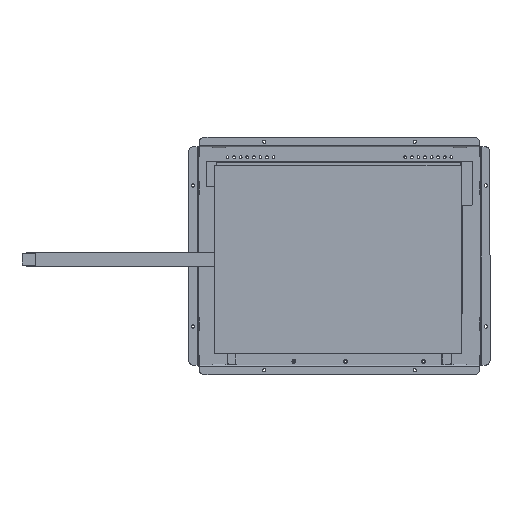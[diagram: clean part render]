
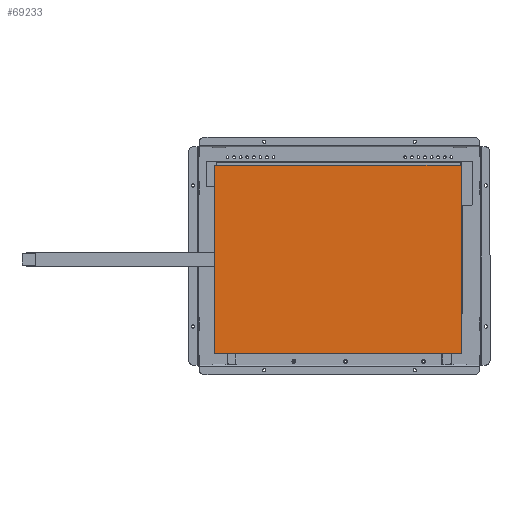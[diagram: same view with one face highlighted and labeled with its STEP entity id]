
A CAD part, top view. The second image highlights one B-rep face of the part: STEP entity #69233.
In plain terms, the highlighted planar face has unit normal (0, 0, 1).
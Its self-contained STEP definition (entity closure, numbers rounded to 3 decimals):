
#8528 = VECTOR ( 'NONE', #211513, 1000. ) ;
#16088 = ORIENTED_EDGE ( 'NONE', *, *, #218559, .T. ) ;
#17710 = CARTESIAN_POINT ( 'NONE',  ( 129.3, 96.4, 32.62 ) ) ;
#22209 = PLANE ( 'NONE',  #29546 ) ;
#27626 = VECTOR ( 'NONE', #215194, 1000. ) ;
#29546 = AXIS2_PLACEMENT_3D ( 'NONE', #202407, #148708, #40327 ) ;
#30520 = CARTESIAN_POINT ( 'NONE',  ( -132.5, 96.4, 32.62 ) ) ;
#40261 = LINE ( 'NONE', #41001, #226860 ) ;
#40327 = DIRECTION ( 'NONE',  ( 0., -1., 0. ) ) ;
#41001 = CARTESIAN_POINT ( 'NONE',  ( -132.5, -103.4, 32.62 ) ) ;
#63593 = ORIENTED_EDGE ( 'NONE', *, *, #69897, .T. ) ;
#66965 = ORIENTED_EDGE ( 'NONE', *, *, #201727, .T. ) ;
#67020 = CARTESIAN_POINT ( 'NONE',  ( 129.3, 96.4, 32.62 ) ) ;
#69233 = ADVANCED_FACE ( 'NONE', ( #175480 ), #22209, .T. ) ;
#69897 = EDGE_CURVE ( 'NONE', #129416, #182540, #183660, .T. ) ;
#95506 = DIRECTION ( 'NONE',  ( 1., 0., 0. ) ) ;
#104689 = LINE ( 'NONE', #67020, #8528 ) ;
#108944 = CARTESIAN_POINT ( 'NONE',  ( -132.5, 96.4, 32.62 ) ) ;
#121432 = DIRECTION ( 'NONE',  ( 0., -1., 0. ) ) ;
#128177 = VERTEX_POINT ( 'NONE', #17710 ) ;
#129416 = VERTEX_POINT ( 'NONE', #108944 ) ;
#130739 = VERTEX_POINT ( 'NONE', #195957 ) ;
#135555 = VECTOR ( 'NONE', #121432, 1000. ) ;
#148708 = DIRECTION ( 'NONE',  ( 0., 0., 1. ) ) ;
#149450 = EDGE_LOOP ( 'NONE', ( #63593, #16088, #173353, #66965 ) ) ;
#158811 = EDGE_CURVE ( 'NONE', #130739, #128177, #104689, .T. ) ;
#171618 = CARTESIAN_POINT ( 'NONE',  ( -132.5, -103.4, 32.62 ) ) ;
#173353 = ORIENTED_EDGE ( 'NONE', *, *, #158811, .T. ) ;
#175480 = FACE_OUTER_BOUND ( 'NONE', #149450, .T. ) ;
#182540 = VERTEX_POINT ( 'NONE', #171618 ) ;
#183660 = LINE ( 'NONE', #30520, #135555 ) ;
#195957 = CARTESIAN_POINT ( 'NONE',  ( 129.3, -103.4, 32.62 ) ) ;
#196305 = CARTESIAN_POINT ( 'NONE',  ( -132.5, 96.4, 32.62 ) ) ;
#201727 = EDGE_CURVE ( 'NONE', #128177, #129416, #219961, .T. ) ;
#202407 = CARTESIAN_POINT ( 'NONE',  ( -132.5, -103.4, 32.62 ) ) ;
#211513 = DIRECTION ( 'NONE',  ( 0., 1., 0. ) ) ;
#215194 = DIRECTION ( 'NONE',  ( -1., 0., 0. ) ) ;
#218559 = EDGE_CURVE ( 'NONE', #182540, #130739, #40261, .T. ) ;
#219961 = LINE ( 'NONE', #196305, #27626 ) ;
#226860 = VECTOR ( 'NONE', #95506, 1000. ) ;
